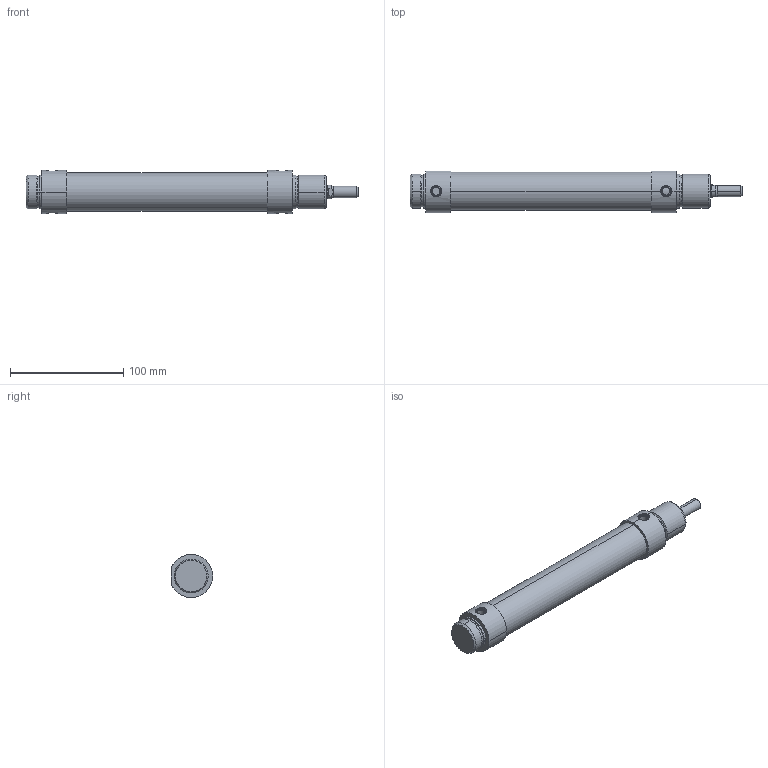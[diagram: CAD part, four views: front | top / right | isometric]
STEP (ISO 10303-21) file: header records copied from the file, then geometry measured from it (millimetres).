
FILE_DESCRIPTION (( 'STEP AP203' ), '1' );
FILE_NAME ('AF0320125A.step', '2012-10-18T16:32:17', ( '' ), ( '' ), 'SwSTEP 2.0', 'SolidWorks 2012', '' );
FILE_SCHEMA (( 'CONFIG_CONTROL_DESIGN' ));
Length unit declared in the file: millimetre
Products named in the file (1): AF0320125A
Bounding box: 293 x 36.5 x 38 mm (x, y, z)
Volume: 235215.8 mm3; surface area: 33516 mm2
Topology: 1 solids, 1 shells, 112 faces, 252 edges, 157 vertices
Faces by surface type: cylinder 53, cone 31, plane 27, bspline 1
Entity records: 3696 total; most frequent: CARTESIAN_POINT 1067, DIRECTION 572, ORIENTED_EDGE 500, EDGE_CURVE 250, AXIS2_PLACEMENT_3D 234, VERTEX_POINT 157, EDGE_LOOP 129, CIRCLE 122
